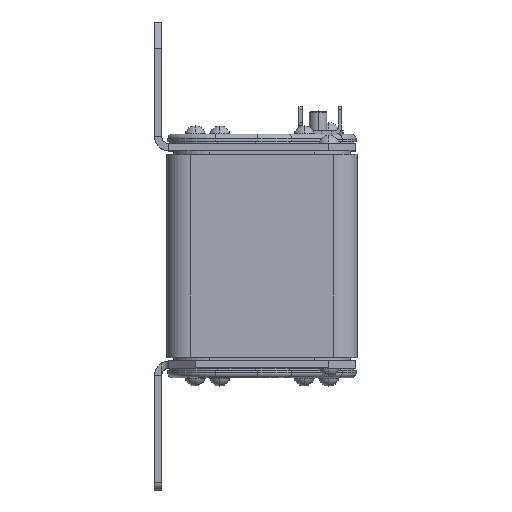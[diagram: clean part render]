
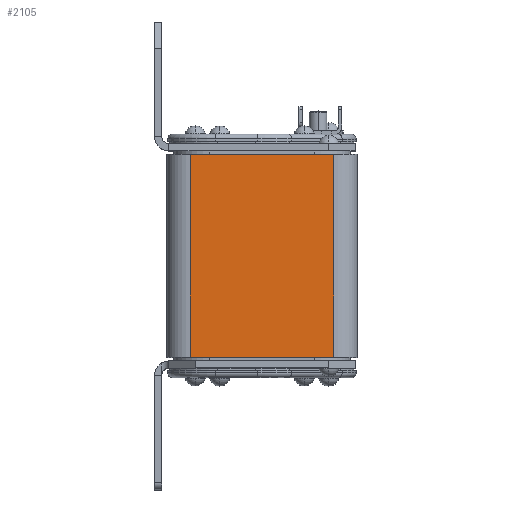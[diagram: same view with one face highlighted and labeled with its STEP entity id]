
A CAD part, top view. The second image highlights one B-rep face of the part: STEP entity #2105.
In plain terms, the highlighted planar face has unit normal (0, 0, 1).
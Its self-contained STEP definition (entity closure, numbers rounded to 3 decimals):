
#238 = DIRECTION ( 'NONE',  ( 1., 0., 0. ) ) ;
#581 = CARTESIAN_POINT ( 'NONE',  ( -30., -42.5, 40. ) ) ;
#1173 = CARTESIAN_POINT ( 'NONE',  ( -30., 42.5, 40. ) ) ;
#1196 = VECTOR ( 'NONE', #18125, 1000. ) ;
#1417 = CARTESIAN_POINT ( 'NONE',  ( -30., 42.5, 40. ) ) ;
#1943 = DIRECTION ( 'NONE',  ( 0., -1., 0. ) ) ;
#2105 = ADVANCED_FACE ( 'NONE', ( #7513 ), #16687, .F. ) ;
#2770 = CARTESIAN_POINT ( 'NONE',  ( 30., -42.5, 40. ) ) ;
#3226 = LINE ( 'NONE', #11653, #1196 ) ;
#4029 = LINE ( 'NONE', #19746, #5053 ) ;
#4758 = VECTOR ( 'NONE', #10980, 1000. ) ;
#5053 = VECTOR ( 'NONE', #238, 1000. ) ;
#6055 = EDGE_CURVE ( 'NONE', #10882, #9184, #17533, .T. ) ;
#6551 = LINE ( 'NONE', #1417, #4758 ) ;
#7513 = FACE_OUTER_BOUND ( 'NONE', #12924, .T. ) ;
#8160 = VERTEX_POINT ( 'NONE', #581 ) ;
#8896 = VECTOR ( 'NONE', #18483, 1000. ) ;
#9184 = VERTEX_POINT ( 'NONE', #2770 ) ;
#10059 = ORIENTED_EDGE ( 'NONE', *, *, #15463, .T. ) ;
#10416 = CARTESIAN_POINT ( 'NONE',  ( 30., 42.5, 40. ) ) ;
#10799 = ORIENTED_EDGE ( 'NONE', *, *, #16508, .F. ) ;
#10882 = VERTEX_POINT ( 'NONE', #10416 ) ;
#10980 = DIRECTION ( 'NONE',  ( 0., -1., 0. ) ) ;
#11653 = CARTESIAN_POINT ( 'NONE',  ( -30., 42.5, 40. ) ) ;
#11864 = AXIS2_PLACEMENT_3D ( 'NONE', #15460, #18770, #1943 ) ;
#12924 = EDGE_LOOP ( 'NONE', ( #10059, #16323, #10799, #14441 ) ) ;
#14441 = ORIENTED_EDGE ( 'NONE', *, *, #15835, .T. ) ;
#15460 = CARTESIAN_POINT ( 'NONE',  ( -30., 42.5, 40. ) ) ;
#15463 = EDGE_CURVE ( 'NONE', #8160, #9184, #4029, .T. ) ;
#15835 = EDGE_CURVE ( 'NONE', #20897, #8160, #6551, .T. ) ;
#16323 = ORIENTED_EDGE ( 'NONE', *, *, #6055, .F. ) ;
#16508 = EDGE_CURVE ( 'NONE', #20897, #10882, #3226, .T. ) ;
#16687 = PLANE ( 'NONE',  #11864 ) ;
#17533 = LINE ( 'NONE', #20028, #8896 ) ;
#18125 = DIRECTION ( 'NONE',  ( 1., 0., 0. ) ) ;
#18483 = DIRECTION ( 'NONE',  ( 0., -1., 0. ) ) ;
#18770 = DIRECTION ( 'NONE',  ( 0., 0., -1. ) ) ;
#19746 = CARTESIAN_POINT ( 'NONE',  ( -30., -42.5, 40. ) ) ;
#20028 = CARTESIAN_POINT ( 'NONE',  ( 30., 42.5, 40. ) ) ;
#20897 = VERTEX_POINT ( 'NONE', #1173 ) ;
